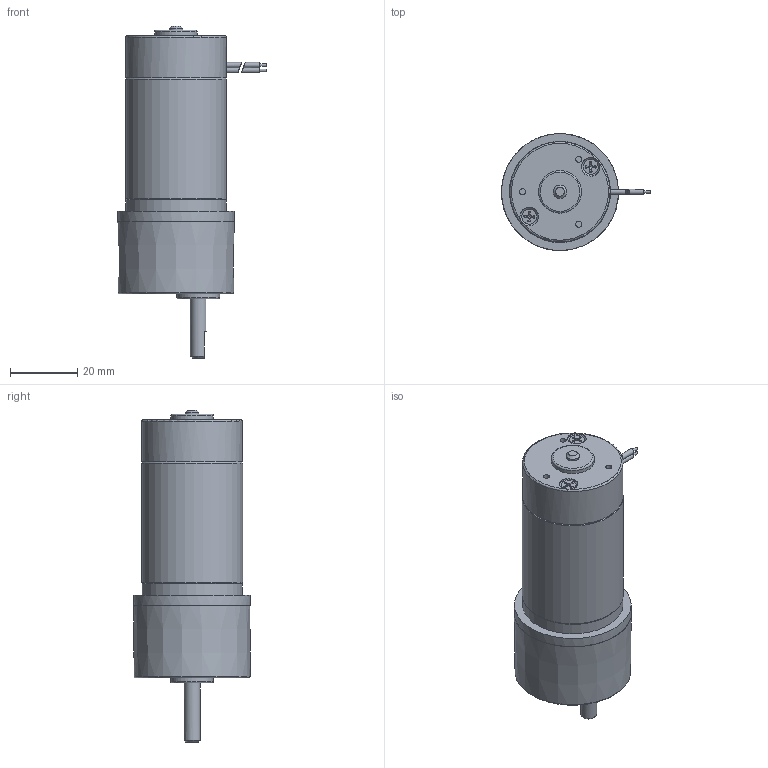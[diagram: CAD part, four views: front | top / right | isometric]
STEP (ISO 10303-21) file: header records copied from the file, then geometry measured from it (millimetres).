
FILE_DESCRIPTION((''),'2;1');
FILE_NAME('Z:\4_DC\새 폴더\RS3 SERIES\RS33ㅁㅁL(O~U).stp','2015-02-12T15:57:05',('kdhkdh'),(''),'Autodesk Inventor 2013','Autodesk Inventor 2013','');
FILE_SCHEMA(('AUTOMOTIVE_DESIGN { 1 0 10303 214 1 1 1 1 }'));
Length unit declared in the file: millimetre
Products named in the file (1): 부품2
Bounding box: 44.28 x 34.74 x 98.59 mm (x, y, z)
Volume: 60361.2 mm3; surface area: 10447 mm2
Topology: 2 solids, 7 shells, 203 faces, 500 edges, 325 vertices
Faces by surface type: plane 76, cylinder 60, cone 43, torus 24
Full cylindrical faces by diameter (mm): 0.76 x2, 1.56 x4, 1.8 x3, 2.156 x3, 2.5 x5, 2.6 x2, 2.7 x3, 4 x1, 4.4 x5, 4.76 x1, 5.5 x5, 12.7 x2, 29.8 x2, 30 x1, 34.7 x1
Entity records: 6114 total; most frequent: CARTESIAN_POINT 1753, DIRECTION 842, ORIENTED_EDGE 818, EDGE_CURVE 409, AXIS2_PLACEMENT_3D 377, VERTEX_POINT 296, EDGE_LOOP 290, FACE_OUTER_BOUND 203
